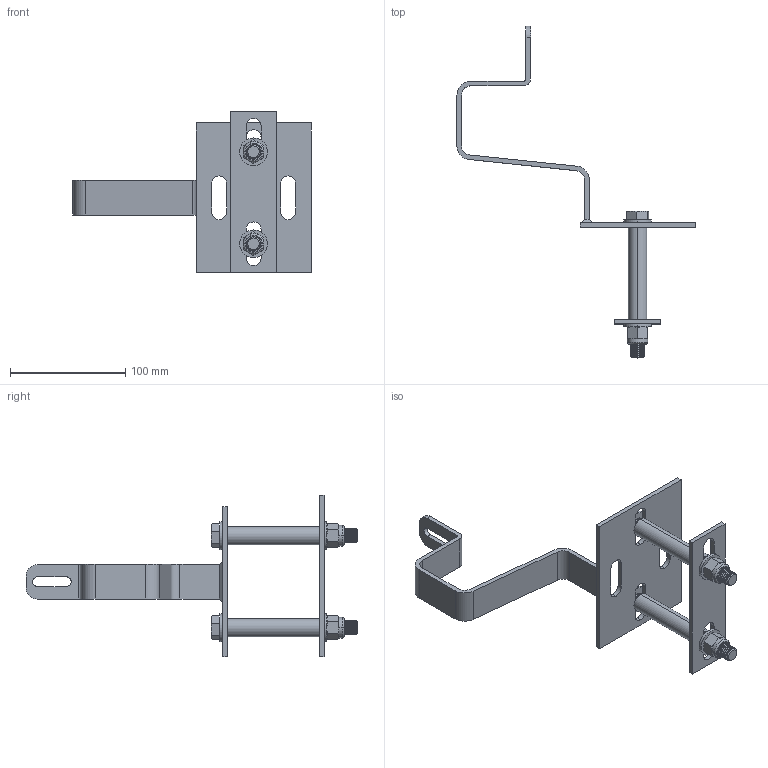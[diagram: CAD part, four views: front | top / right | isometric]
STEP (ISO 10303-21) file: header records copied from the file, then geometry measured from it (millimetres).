
FILE_DESCRIPTION (( 'STEP AP203' ), '1' );
FILE_NAME ('084.106.149-80.STEP', '2013-01-23T10:51:39', ( 'Alusic' ), ( 'Alusic' ), 'SwSTEP 2.0', 'SolidWorks 2011', '' );
FILE_SCHEMA (( 'CONFIG_CONTROL_DESIGN' ));
Length unit declared in the file: millimetre
Products named in the file (7): 084.106.149-3; Rosetta ISO 7089_Washer ISO 7089 - 12; 084.106.149-80; Vite con testa esagonale ISO 4017_ISO 4017 - M12 x 120-S; Dado esagonale di tipo con torsione prevalente ISO 7040_ISO 7040-M12-S; 084.106.149-2; 084.106.149-1_Default<A macchina>
Assembly tree (12 placements, depth 2):
  084.106.149-80
    084.106.149-3  x2
    Vite con testa esagonale ISO 4017_ISO 4017 - M12 x 120-S  x2
    Rosetta ISO 7089_Washer ISO 7089 - 12  x4
    Dado esagonale di tipo con torsione prevalente ISO 7040_ISO 7040-M12-S  x2
    084.106.149-2
    084.106.149-1_Default<A macchina>
Bounding box: 207.04 x 288.5 x 140 mm (x, y, z)
Volume: 148051.7 mm3; surface area: 97149.5 mm2
Topology: 14 solids, 14 shells, 1141 faces, 2890 edges, 1780 vertices
Faces by surface type: cone 648, cylinder 376, plane 109, torus 8
Entity records: 19473 total; most frequent: DIRECTION 3586, CARTESIAN_POINT 3312, ORIENTED_EDGE 3072, EDGE_CURVE 1536, AXIS2_PLACEMENT_3D 1468, VERTEX_POINT 950, CIRCLE 850, VECTOR 650
